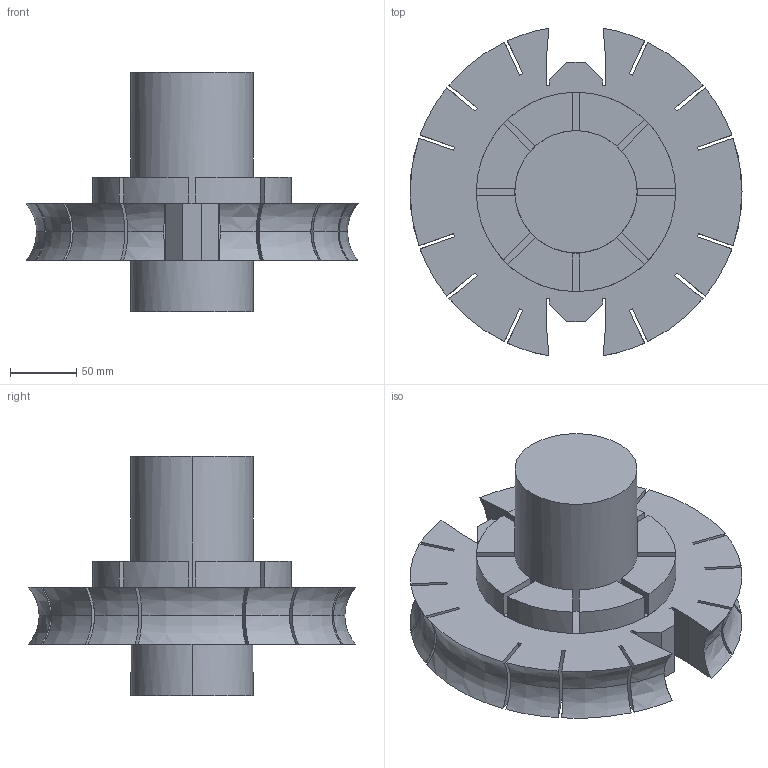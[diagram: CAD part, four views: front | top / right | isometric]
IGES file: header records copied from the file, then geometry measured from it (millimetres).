
Start section: IMSI TurboCAD v14.0
Global section: author: NULL; organization: NULL; date: 20250711.181602; units: millimetre
Bounding box: 249.93 x 246.55 x 180 mm (x, y, z)
Surface area: 209407.6 mm2 (no closed solid volume)
Topology: 0 solids, 0 shells, 137 faces, 806 edges, 808 vertices
Faces by surface type: extrusion 101, revolution 36
